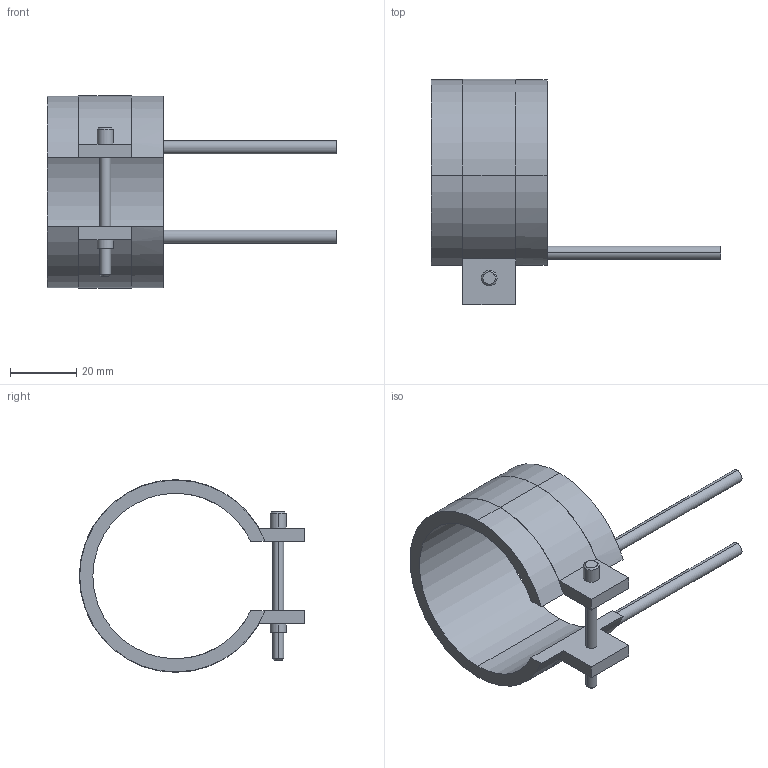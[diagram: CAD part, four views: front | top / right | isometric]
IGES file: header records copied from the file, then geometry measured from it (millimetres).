
Start section: START RECORD GO HERE.
Global section: file name: 14050035.igs; native system: DASSAULT SYSTEMES CATIA V5 R20 - www.3ds.com; preprocessor: CATIA Version 5 Release 20 ; author: Utente; organization: NB04-ASUS; date: 20210331.135347; units: millimetre
Bounding box: 87.5 x 68.1 x 58.2 mm (x, y, z)
Surface area: 14624.3 mm2 (no closed solid volume)
Topology: 0 solids, 0 shells, 45 faces, 232 edges, 232 vertices
Faces by surface type: revolution 28, plane 17
